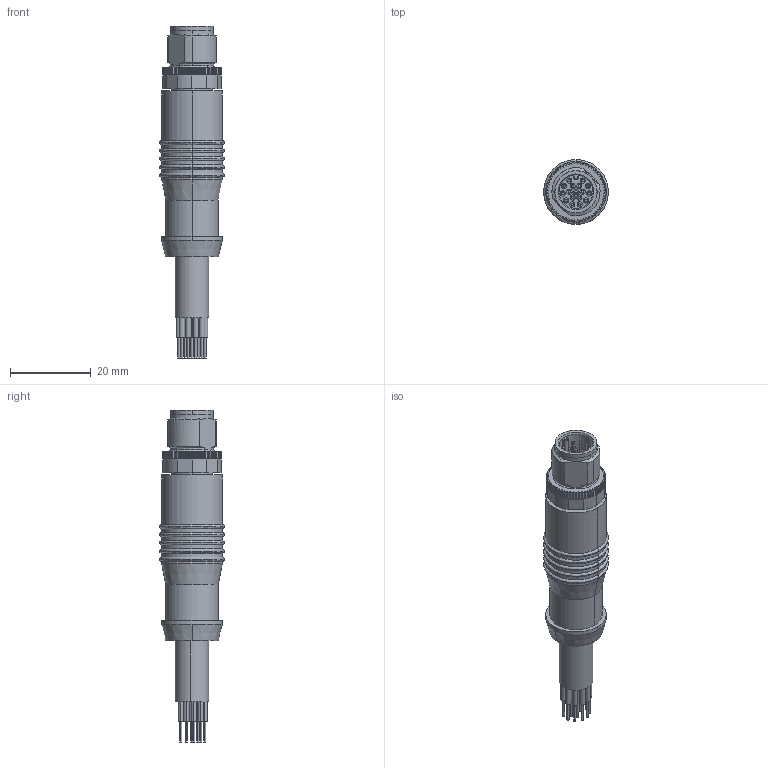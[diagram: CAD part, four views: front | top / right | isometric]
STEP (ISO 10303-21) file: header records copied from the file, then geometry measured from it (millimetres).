
FILE_DESCRIPTION (( 'STEP AP214' ), '1' );
FILE_NAME ('MI-G0.STEP', '2023-06-22T08:30:43', ( '' ), ( '' ), 'SwSTEP 2.0', 'SolidWorks 2021', '' );
FILE_SCHEMA (( 'AUTOMOTIVE_DESIGN' ));
Length unit declared in the file: millimetre
Products named in the file (4): M12 8 Pos Male Mold; MI-G0; MI_Cable_17; M12-17 Male
Assembly tree (3 placements, depth 2):
  MI-G0
    M12-17 Male
    M12 8 Pos Male Mold
    MI_Cable_17
Bounding box: 16 x 16 x 82.05 mm (x, y, z)
Volume: 9118.3 mm3; surface area: 4966 mm2
Topology: 37 solids, 37 shells, 669 faces, 1629 edges, 1040 vertices
Faces by surface type: plane 324, cylinder 291, bspline 43, cone 11
Entity records: 21895 total; most frequent: CARTESIAN_POINT 4088, DIRECTION 3572, ORIENTED_EDGE 3190, EDGE_CURVE 1595, AXIS2_PLACEMENT_3D 1363, VERTEX_POINT 1040, VECTOR 846, LINE 846
